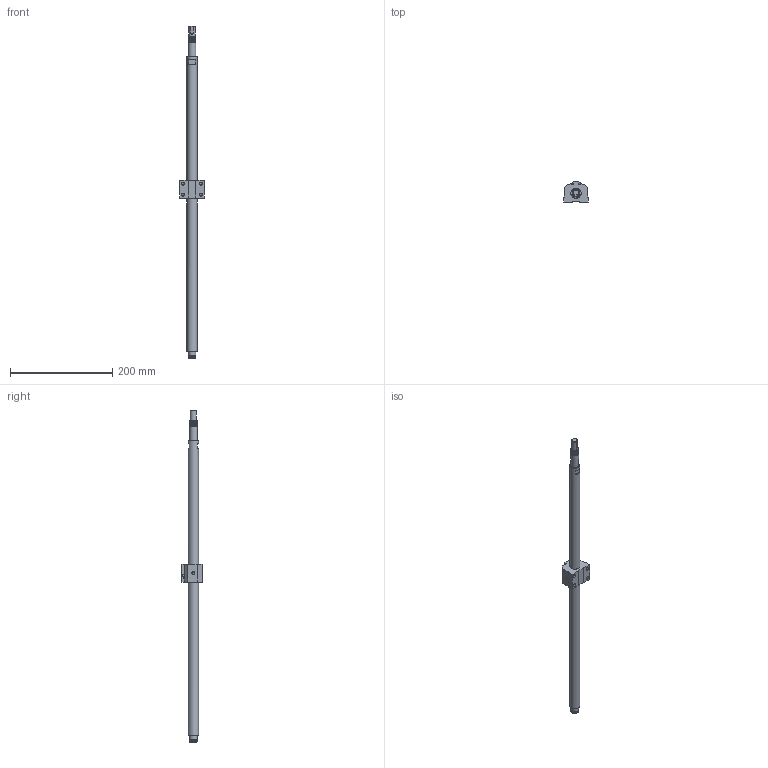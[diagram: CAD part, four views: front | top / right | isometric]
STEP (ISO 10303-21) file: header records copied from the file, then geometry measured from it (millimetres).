
FILE_DESCRIPTION(/* description */ (''),/* implementation_level */ '2;1');
FILE_NAME(/* name */ 'BSG498_asm1.stp',/* time_stamp */ '2017-01-17T15:30:35+08:00',/* author */ (''),/* organization */ (''),/* preprocessor_version */ 'ST-DEVELOPER v15',/* originating_system */ 'SIEMENS PLM Software NX 8.5',/* authorisation */ '');
FILE_SCHEMA (('AUTOMOTIVE_DESIGN { 1 0 10303 214 3 1 1 1 }'));
Length unit declared in the file: millimetre
Products named in the file (3): 01; BSG189; BSG498_asm1
Assembly tree (2 placements, depth 2):
  BSG498_asm1
    BSG189
    01
Bounding box: 48 x 39.5 x 650 mm (x, y, z)
Volume: 43021.6 mm3; surface area: 52201.9 mm2
Topology: 1 solids, 2 shells, 93 faces, 222 edges, 148 vertices
Faces by surface type: plane 47, cylinder 34, cone 6, torus 4, bspline 2
Full cylindrical faces by diameter (mm): 3.5 x2, 5 x5, 6 x7, 12 x1, 14.3 x1, 15 x14, 20 x2
Entity records: 4945 total; most frequent: CARTESIAN_POINT 3189, DIRECTION 344, ORIENTED_EDGE 290, EDGE_CURVE 145, AXIS2_PLACEMENT_3D 135, EDGE_LOOP 134, VERTEX_POINT 115, FACE_BOUND 106
